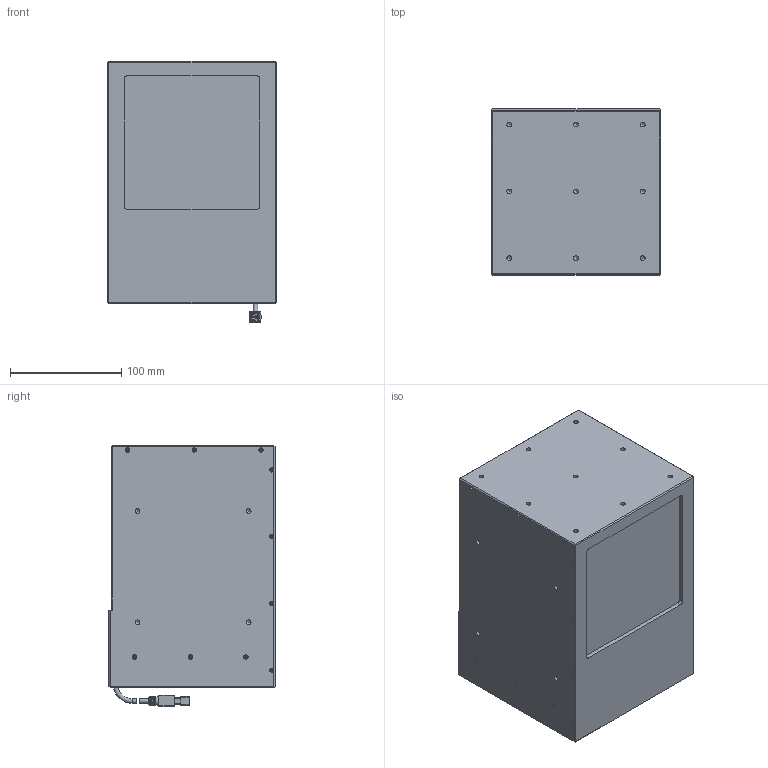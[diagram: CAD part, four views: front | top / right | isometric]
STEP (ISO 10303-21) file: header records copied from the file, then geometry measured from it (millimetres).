
FILE_DESCRIPTION (( 'STEP AP203' ), '1' );
FILE_NAME ('OPT-CO150-X-V4.3尨砩芞.STEP', '2025-01-22T06:01:36', ( '' ), ( '' ), 'SwSTEP 2.0', 'SolidWorks 2016', '' );
FILE_SCHEMA (( 'CONFIG_CONTROL_DESIGN' ));
Length unit declared in the file: millimetre
Products named in the file (1): OPT-CO150-X-V4.3尨砩芞
Bounding box: 152 x 149.5 x 234.78 mm (x, y, z)
Volume: 3044739 mm3; surface area: 403863.2 mm2
Topology: 6 solids, 13 shells, 745 faces, 1880 edges, 1202 vertices
Faces by surface type: plane 422, cylinder 224, cone 71, bspline 20, torus 8
Full cylindrical faces by diameter (mm): 1.6 x28, 2 x14, 2.4 x24, 3.5 x1, 4.1 x3, 4.2 x17, 5.8 x1, 7.5 x2, 8 x1
Entity records: 21419 total; most frequent: CARTESIAN_POINT 4429, DIRECTION 3497, ORIENTED_EDGE 3284, EDGE_CURVE 1642, AXIS2_PLACEMENT_3D 1191, VERTEX_POINT 1137, VECTOR 1115, LINE 1115
